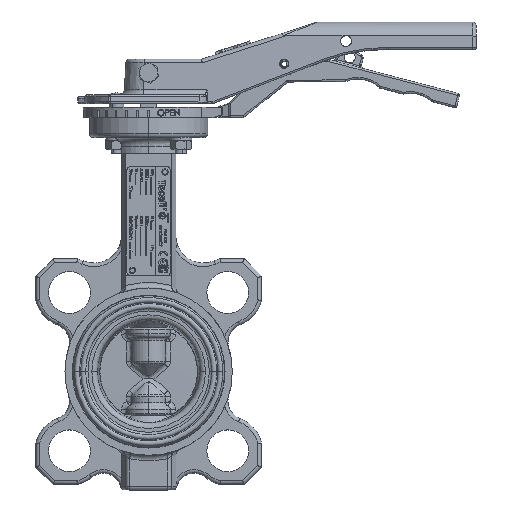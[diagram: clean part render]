
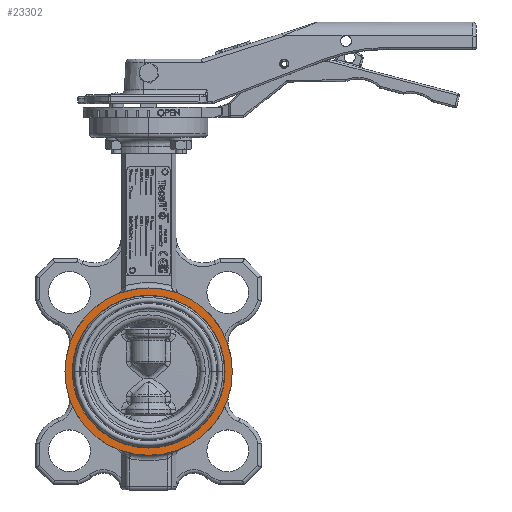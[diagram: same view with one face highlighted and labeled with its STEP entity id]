
A CAD part, top view. The second image highlights one B-rep face of the part: STEP entity #23302.
In plain terms, the highlighted planar face has unit normal (0, 0, 1).
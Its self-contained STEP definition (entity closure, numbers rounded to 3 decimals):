
#185 = CARTESIAN_POINT ( 'NONE',  ( 0., 0., 20.9 ) ) ;
#186 = DIRECTION ( 'NONE',  ( 0., 0., 1. ) ) ;
#187 = DIRECTION ( 'NONE',  ( 0., -1., 0. ) ) ;
#7859 = VERTEX_POINT ( 'NONE', #181599 ) ;
#12009 = AXIS2_PLACEMENT_3D ( 'NONE', #69074, #69107, #69110 ) ;
#16965 = CIRCLE ( 'NONE', #16970, 42. ) ;
#16970 = AXIS2_PLACEMENT_3D ( 'NONE', #50699, #50700, #50701 ) ;
#20928 = EDGE_CURVE ( 'NONE', #7859, #123719, #54623, .T. ) ;
#23302 = ADVANCED_FACE ( 'NONE', ( #69097, #69087 ), #69102, .T. ) ;
#50699 = CARTESIAN_POINT ( 'NONE',  ( 0., 0., 20.9 ) ) ;
#50700 = DIRECTION ( 'NONE',  ( 0., 0., 1. ) ) ;
#50701 = DIRECTION ( 'NONE',  ( 0., -1., 0. ) ) ;
#54623 = CIRCLE ( 'NONE', #54625, 46. ) ;
#54625 = AXIS2_PLACEMENT_3D ( 'NONE', #169255, #169260, #169265 ) ;
#55692 = CIRCLE ( 'NONE', #55699, 46. ) ;
#55699 = AXIS2_PLACEMENT_3D ( 'NONE', #86343, #86345, #86347 ) ;
#58110 = CARTESIAN_POINT ( 'NONE',  ( -46., 0., 20.9 ) ) ;
#62583 = EDGE_CURVE ( 'NONE', #180884, #180896, #169666, .T. ) ;
#67182 = ORIENTED_EDGE ( 'NONE', *, *, #62583, .F. ) ;
#67184 = ORIENTED_EDGE ( 'NONE', *, *, #122623, .F. ) ;
#67186 = ORIENTED_EDGE ( 'NONE', *, *, #125368, .T. ) ;
#67188 = ORIENTED_EDGE ( 'NONE', *, *, #20928, .T. ) ;
#69074 = CARTESIAN_POINT ( 'NONE',  ( 0., 46., 20.9 ) ) ;
#69087 = FACE_BOUND ( 'NONE', #97149, .T. ) ;
#69097 = FACE_OUTER_BOUND ( 'NONE', #97130, .T. ) ;
#69102 = PLANE ( 'NONE',  #12009 ) ;
#69107 = DIRECTION ( 'NONE',  ( 0., 0., 1. ) ) ;
#69110 = DIRECTION ( 'NONE',  ( 0., -1., 0. ) ) ;
#86343 = CARTESIAN_POINT ( 'NONE',  ( 0., 0., 20.9 ) ) ;
#86345 = DIRECTION ( 'NONE',  ( 0., 0., 1. ) ) ;
#86347 = DIRECTION ( 'NONE',  ( 0., -1., 0. ) ) ;
#97130 = EDGE_LOOP ( 'NONE', ( #67188, #67186 ) ) ;
#97149 = EDGE_LOOP ( 'NONE', ( #67184, #67182 ) ) ;
#115646 = CARTESIAN_POINT ( 'NONE',  ( 0., 42., 20.9 ) ) ;
#115663 = CARTESIAN_POINT ( 'NONE',  ( 0., -42., 20.9 ) ) ;
#122623 = EDGE_CURVE ( 'NONE', #180896, #180884, #16965, .T. ) ;
#123719 = VERTEX_POINT ( 'NONE', #58110 ) ;
#125368 = EDGE_CURVE ( 'NONE', #123719, #7859, #55692, .T. ) ;
#169255 = CARTESIAN_POINT ( 'NONE',  ( 0., 0., 20.9 ) ) ;
#169260 = DIRECTION ( 'NONE',  ( 0., 0., 1. ) ) ;
#169265 = DIRECTION ( 'NONE',  ( 0., -1., 0. ) ) ;
#169666 = CIRCLE ( 'NONE', #169692, 42. ) ;
#169692 = AXIS2_PLACEMENT_3D ( 'NONE', #185, #186, #187 ) ;
#180884 = VERTEX_POINT ( 'NONE', #115646 ) ;
#180896 = VERTEX_POINT ( 'NONE', #115663 ) ;
#181599 = CARTESIAN_POINT ( 'NONE',  ( 46., 0., 20.9 ) ) ;
